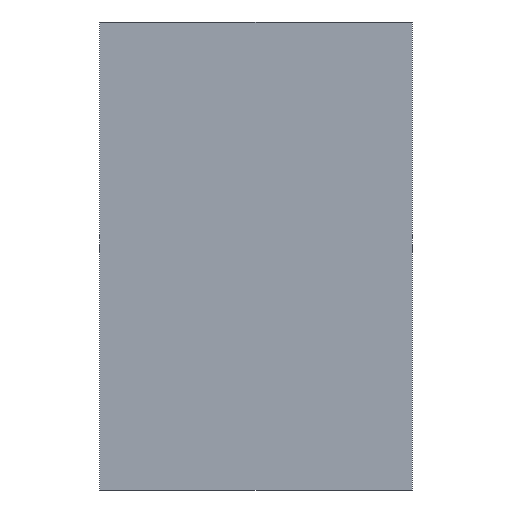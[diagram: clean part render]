
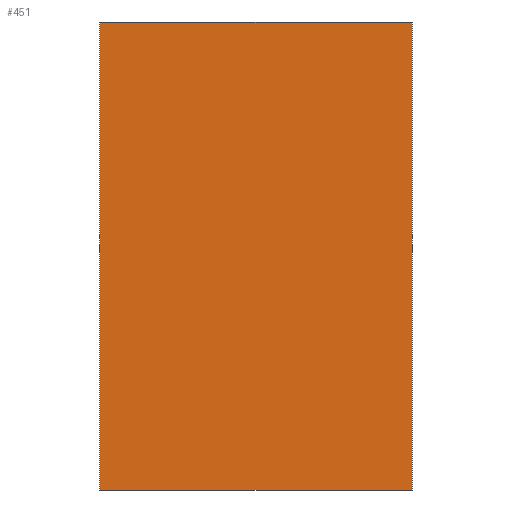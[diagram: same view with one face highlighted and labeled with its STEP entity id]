
A CAD part, front view. The second image highlights one B-rep face of the part: STEP entity #451.
In plain terms, the highlighted planar face has unit normal (0, -1, 0).
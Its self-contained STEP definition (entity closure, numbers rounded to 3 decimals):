
#17 = EDGE_CURVE ( 'NONE', #355, #183, #66, .T. ) ;
#47 = LINE ( 'NONE', #1036, #512 ) ;
#66 = LINE ( 'NONE', #747, #306 ) ;
#139 = CARTESIAN_POINT ( 'NONE',  ( -10., -5., 30. ) ) ;
#175 = LINE ( 'NONE', #541, #945 ) ;
#181 = FACE_OUTER_BOUND ( 'NONE', #432, .T. ) ;
#183 = VERTEX_POINT ( 'NONE', #342 ) ;
#184 = ORIENTED_EDGE ( 'NONE', *, *, #17, .T. ) ;
#187 = CARTESIAN_POINT ( 'NONE',  ( 10., -5., 30. ) ) ;
#255 = PLANE ( 'NONE',  #264 ) ;
#264 = AXIS2_PLACEMENT_3D ( 'NONE', #187, #809, #988 ) ;
#288 = VERTEX_POINT ( 'NONE', #346 ) ;
#293 = CARTESIAN_POINT ( 'NONE',  ( -10., -5., 30. ) ) ;
#306 = VECTOR ( 'NONE', #660, 1000. ) ;
#318 = ORIENTED_EDGE ( 'NONE', *, *, #719, .F. ) ;
#339 = ORIENTED_EDGE ( 'NONE', *, *, #917, .T. ) ;
#342 = CARTESIAN_POINT ( 'NONE',  ( 10., -5., 0. ) ) ;
#346 = CARTESIAN_POINT ( 'NONE',  ( 10., -5., 30. ) ) ;
#355 = VERTEX_POINT ( 'NONE', #447 ) ;
#432 = EDGE_LOOP ( 'NONE', ( #184, #318, #612, #339 ) ) ;
#447 = CARTESIAN_POINT ( 'NONE',  ( -10., -5., 0. ) ) ;
#451 = ADVANCED_FACE ( 'NONE', ( #181 ), #255, .F. ) ;
#512 = VECTOR ( 'NONE', #772, 1000. ) ;
#541 = CARTESIAN_POINT ( 'NONE',  ( 10., -5., 30. ) ) ;
#569 = LINE ( 'NONE', #293, #606 ) ;
#606 = VECTOR ( 'NONE', #661, 1000. ) ;
#612 = ORIENTED_EDGE ( 'NONE', *, *, #993, .F. ) ;
#660 = DIRECTION ( 'NONE',  ( 1., 0., 0. ) ) ;
#661 = DIRECTION ( 'NONE',  ( 0., 0., -1. ) ) ;
#719 = EDGE_CURVE ( 'NONE', #288, #183, #175, .T. ) ;
#747 = CARTESIAN_POINT ( 'NONE',  ( 10., -5., 0. ) ) ;
#772 = DIRECTION ( 'NONE',  ( 1., 0., 0. ) ) ;
#800 = DIRECTION ( 'NONE',  ( 0., 0., -1. ) ) ;
#809 = DIRECTION ( 'NONE',  ( 0., 1., 0. ) ) ;
#917 = EDGE_CURVE ( 'NONE', #1035, #355, #569, .T. ) ;
#945 = VECTOR ( 'NONE', #800, 1000. ) ;
#988 = DIRECTION ( 'NONE',  ( 0., 0., 1. ) ) ;
#993 = EDGE_CURVE ( 'NONE', #1035, #288, #47, .T. ) ;
#1035 = VERTEX_POINT ( 'NONE', #139 ) ;
#1036 = CARTESIAN_POINT ( 'NONE',  ( 10., -5., 30. ) ) ;
